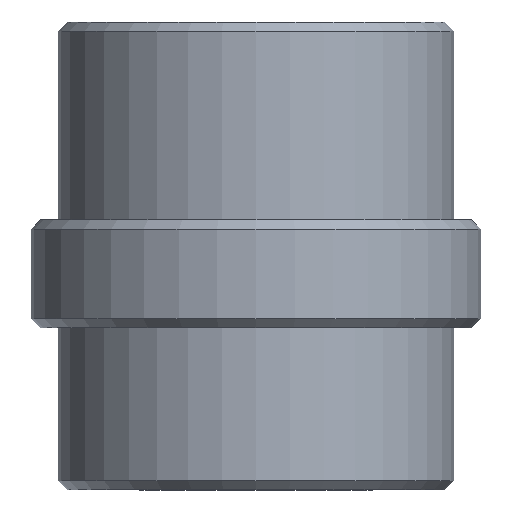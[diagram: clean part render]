
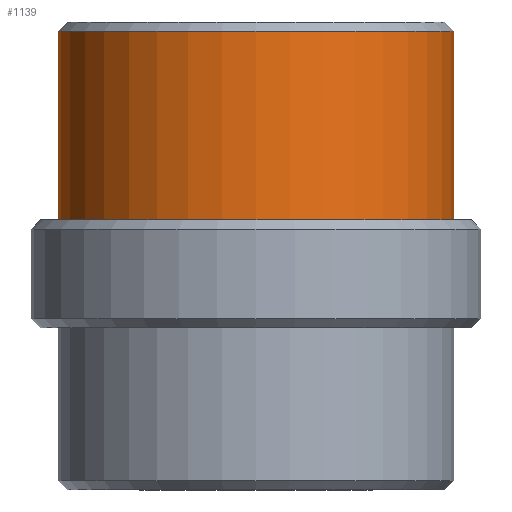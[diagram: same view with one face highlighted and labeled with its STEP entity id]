
A CAD part, front view. The second image highlights one B-rep face of the part: STEP entity #1139.
In plain terms, the highlighted cylindrical face has radius 11 mm (diameter 22 mm), a partial arc.
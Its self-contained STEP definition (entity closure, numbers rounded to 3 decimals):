
#271=CARTESIAN_POINT('',(0.,0.,16.5));
#272=DIRECTION('',(0.,0.,-1.));
#273=DIRECTION('',(1.,0.,0.));
#274=AXIS2_PLACEMENT_3D('',#271,#272,#273);
#276=DIRECTION('',(0.,0.,-1.));
#277=VECTOR('',#276,10.5);
#278=CARTESIAN_POINT('',(11.,0.,
16.5));
#279=LINE('',#278,#277);
#280=DIRECTION('',(0.,0.,-1.));
#281=VECTOR('',#280,10.5);
#282=CARTESIAN_POINT('',(-11.,0.,
16.5));
#283=LINE('',#282,#281);
#925=CARTESIAN_POINT('',(0.,0.,6.));
#926=DIRECTION('',(0.,0.,-1.));
#927=DIRECTION('',(1.,0.,0.));
#928=AXIS2_PLACEMENT_3D('',#925,#926,#927);
#963=CARTESIAN_POINT('',(11.,0.,6.));
#964=CARTESIAN_POINT('',(-11.,0.,6.));
#965=VERTEX_POINT('',#963);
#966=VERTEX_POINT('',#964);
#997=CARTESIAN_POINT('',(11.,0.,16.5));
#998=CARTESIAN_POINT('',(-11.,0.,16.5));
#999=VERTEX_POINT('',#997);
#1000=VERTEX_POINT('',#998);
#1125=CARTESIAN_POINT('',(0.,0.,-10.3));
#1126=DIRECTION('',(0.,0.,1.));
#1127=DIRECTION('',(-1.,0.,0.));
#1128=AXIS2_PLACEMENT_3D('',#1125,#1126,#1127);
#1129=CYLINDRICAL_SURFACE('',#1128,11.);
#1130=ORIENTED_EDGE('',*,*,#1114,.F.);
#1132=ORIENTED_EDGE('',*,*,#1131,.T.);
#1134=ORIENTED_EDGE('',*,*,#1133,.T.);
#1136=ORIENTED_EDGE('',*,*,#1135,.F.);
#1137=EDGE_LOOP('',(#1130,#1132,#1134,#1136));
#1138=FACE_OUTER_BOUND('',#1137,.F.);
#1139=ADVANCED_FACE('',(#1138),#1129,.T.);
#275=CIRCLE('',#274,11.);
#929=CIRCLE('',#928,11.);
#1114=EDGE_CURVE('',#999,#1000,#275,.T.);
#1131=EDGE_CURVE('',#999,#965,#279,.T.);
#1133=EDGE_CURVE('',#965,#966,#929,.T.);
#1135=EDGE_CURVE('',#1000,#966,#283,.T.);
